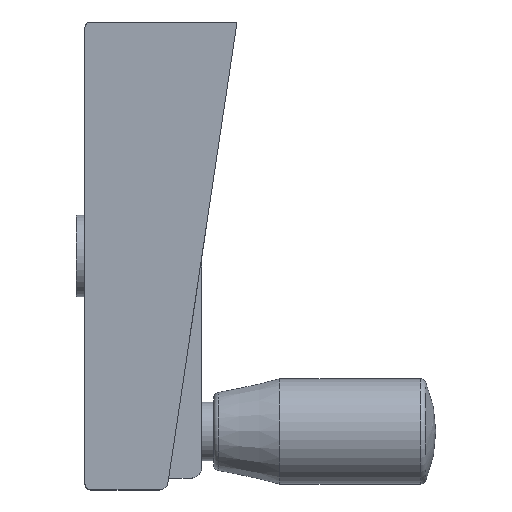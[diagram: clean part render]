
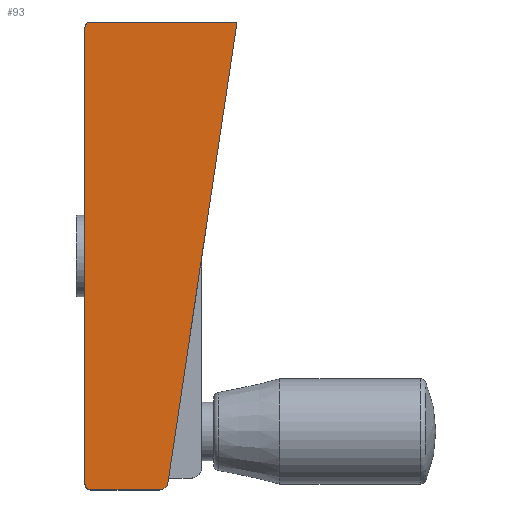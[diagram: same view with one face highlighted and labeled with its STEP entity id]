
A CAD part, top view. The second image highlights one B-rep face of the part: STEP entity #93.
In plain terms, the highlighted planar face has unit normal (0, -0.025, 1).
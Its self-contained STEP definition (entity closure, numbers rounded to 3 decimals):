
#93 = ADVANCED_FACE( '', ( #150 ), #151, .F. );
#150 = FACE_OUTER_BOUND( '', #218, .T. );
#151 = PLANE( '', #219 );
#218 = EDGE_LOOP( '', ( #357, #358, #359, #360, #361, #362, #363, #364, #365, #366, #367 ) );
#219 = AXIS2_PLACEMENT_3D( '', #368, #369, #370 );
#357 = ORIENTED_EDGE( '', *, *, #484, .F. );
#358 = ORIENTED_EDGE( '', *, *, #481, .F. );
#359 = ORIENTED_EDGE( '', *, *, #485, .F. );
#360 = ORIENTED_EDGE( '', *, *, #486, .F. );
#361 = ORIENTED_EDGE( '', *, *, #468, .F. );
#362 = ORIENTED_EDGE( '', *, *, #465, .F. );
#363 = ORIENTED_EDGE( '', *, *, #461, .F. );
#364 = ORIENTED_EDGE( '', *, *, #458, .F. );
#365 = ORIENTED_EDGE( '', *, *, #455, .F. );
#366 = ORIENTED_EDGE( '', *, *, #452, .F. );
#367 = ORIENTED_EDGE( '', *, *, #445, .F. );
#368 = CARTESIAN_POINT( '', ( 27., 0., 12. ) );
#369 = DIRECTION( '', ( 0., 0.025, -1. ) );
#370 = DIRECTION( '', ( 0., 1., 0.025 ) );
#445 = EDGE_CURVE( '', #509, #511, #512, .T. );
#452 = EDGE_CURVE( '', #511, #519, #523, .T. );
#455 = EDGE_CURVE( '', #519, #524, #528, .T. );
#458 = EDGE_CURVE( '', #524, #529, #533, .T. );
#461 = EDGE_CURVE( '', #529, #534, #538, .T. );
#465 = EDGE_CURVE( '', #534, #541, #545, .T. );
#468 = EDGE_CURVE( '', #541, #546, #550, .T. );
#481 = EDGE_CURVE( '', #571, #573, #574, .T. );
#484 = EDGE_CURVE( '', #573, #509, #578, .T. );
#485 = EDGE_CURVE( '', #579, #571, #580, .T. );
#486 = EDGE_CURVE( '', #546, #579, #581, .T. );
#509 = VERTEX_POINT( '', #611 );
#511 = VERTEX_POINT( '', #614 );
#512 = LINE( '', #615, #616 );
#519 = VERTEX_POINT( '', #625 );
#523 = LINE( '', #631, #632 );
#524 = VERTEX_POINT( '', #633 );
#528 = ELLIPSE( '', #638, 1.5, 1.5 );
#529 = VERTEX_POINT( '', #639 );
#533 = LINE( '', #645, #646 );
#534 = VERTEX_POINT( '', #647 );
#538 = ELLIPSE( '', #652, 1., 1. );
#541 = VERTEX_POINT( '', #655 );
#545 = LINE( '', #661, #662 );
#546 = VERTEX_POINT( '', #663 );
#550 = ELLIPSE( '', #668, 1., 1. );
#571 = VERTEX_POINT( '', #692 );
#573 = VERTEX_POINT( '', #695 );
#574 = LINE( '', #696, #697 );
#578 = LINE( '', #703, #704 );
#579 = VERTEX_POINT( '', #705 );
#580 = LINE( '', #706, #707 );
#581 = LINE( '', #708, #709 );
#611 = CARTESIAN_POINT( '', ( 14.302, -78., 10.05 ) );
#614 = CARTESIAN_POINT( '', ( 14.3, -78., 10.05 ) );
#615 = CARTESIAN_POINT( '', ( 14.3, -78., 10.05 ) );
#616 = VECTOR( '', #737, 1000. );
#625 = CARTESIAN_POINT( '', ( 14.192, -78.723, 10.032 ) );
#631 = CARTESIAN_POINT( '', ( 14.243, -78.381, 10.04 ) );
#632 = VECTOR( '', #748, 1000. );
#633 = CARTESIAN_POINT( '', ( 12.708, -80., 10. ) );
#638 = AXIS2_PLACEMENT_3D( '', #753, #754, #755 );
#639 = CARTESIAN_POINT( '', ( 1., -80., 10. ) );
#645 = CARTESIAN_POINT( '', ( 27., -80., 10. ) );
#646 = VECTOR( '', #758, 1000. );
#647 = CARTESIAN_POINT( '', ( 0., -79., 10.025 ) );
#652 = AXIS2_PLACEMENT_3D( '', #763, #764, #765 );
#655 = CARTESIAN_POINT( '', ( 0., -1., 11.975 ) );
#661 = CARTESIAN_POINT( '', ( 0., -0.7, 11.983 ) );
#662 = VECTOR( '', #771, 1000. );
#663 = CARTESIAN_POINT( '', ( 1., 0., 12. ) );
#668 = AXIS2_PLACEMENT_3D( '', #776, #777, #778 );
#692 = CARTESIAN_POINT( '', ( 20., -40., 11. ) );
#695 = CARTESIAN_POINT( '', ( 20., -40.007, 11. ) );
#696 = CARTESIAN_POINT( '', ( 20., -75.653, 10.109 ) );
#697 = VECTOR( '', #804, 1000. );
#703 = CARTESIAN_POINT( '', ( 26.022, 0.147, 12.004 ) );
#704 = VECTOR( '', #807, 1000. );
#705 = CARTESIAN_POINT( '', ( 26., 0., 12. ) );
#706 = CARTESIAN_POINT( '', ( 20.048, -39.682, 11.008 ) );
#707 = VECTOR( '', #808, 1000. );
#708 = CARTESIAN_POINT( '', ( 26., 0., 12. ) );
#709 = VECTOR( '', #809, 1000. );
#737 = DIRECTION( '', ( -1., 0., 0. ) );
#748 = DIRECTION( '', ( -0.148, -0.989, -0.025 ) );
#753 = CARTESIAN_POINT( '', ( 12.708, -78.5, 10.038 ) );
#754 = DIRECTION( '', ( 0., 0.025, -1. ) );
#755 = DIRECTION( '', ( 0., -1., -0.025 ) );
#758 = DIRECTION( '', ( -1., 0., 0. ) );
#763 = CARTESIAN_POINT( '', ( 1., -79., 10.025 ) );
#764 = DIRECTION( '', ( 0., 0.025, -1. ) );
#765 = DIRECTION( '', ( 0., -1., -0.025 ) );
#771 = DIRECTION( '', ( 0., 1., 0.025 ) );
#776 = CARTESIAN_POINT( '', ( 1., -1., 11.975 ) );
#777 = DIRECTION( '', ( 0., 0.025, -1. ) );
#778 = DIRECTION( '', ( 0., -1., -0.025 ) );
#804 = DIRECTION( '', ( 0., -1., -0.025 ) );
#807 = DIRECTION( '', ( -0.148, -0.989, -0.025 ) );
#808 = DIRECTION( '', ( -0.148, -0.989, -0.025 ) );
#809 = DIRECTION( '', ( 1., 0., 0. ) );
